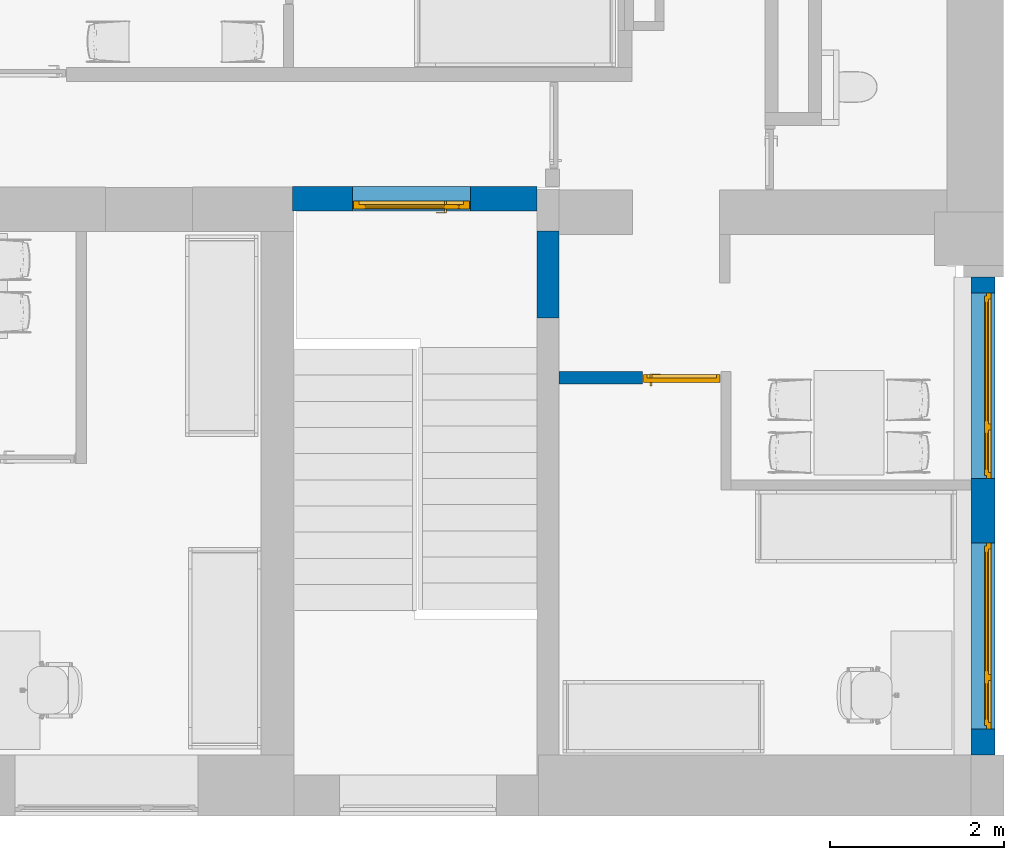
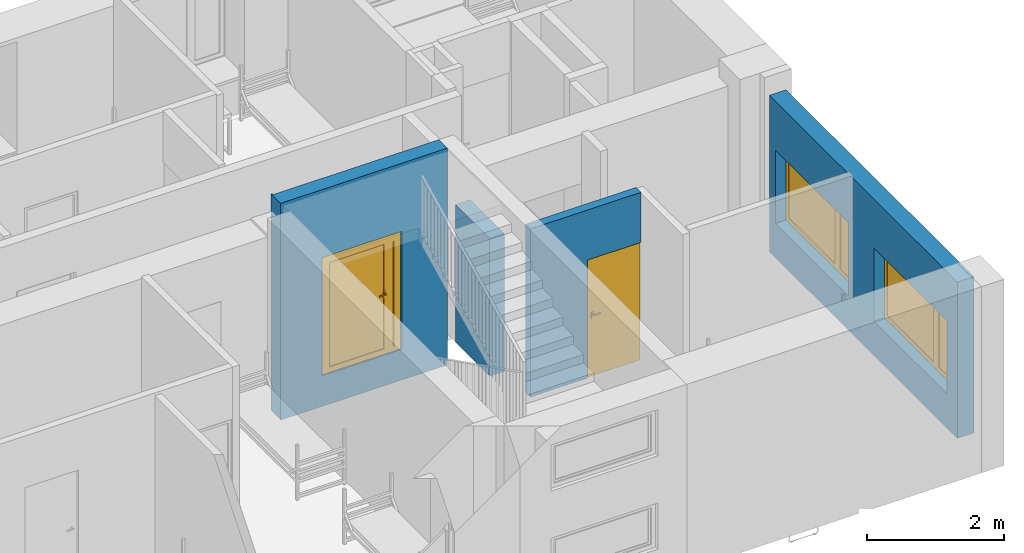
# One storey, part 12 of 48: 4 walls, 2 doors, 2 windows, 5 openings.
"""IFC2X3 building model written with IfcOpenShell, lengths in millimetres."""

from ifc_helpers import new_model, entity, si_unit, converted_unit, derived_unit, direction, frame, frame_2d, origin, place, context, subcontext, project, spatial, polyline, rectangle, extrude, clip, bounded_halfspace, faceted_brep, source, transform, mapped, material, material_list, layer, layer_set, layer_usage, type_object, type_shapes, element, fill, save


model = new_model("IFC2X3")

# Units and contexts
model_context = context("Model", 3, precision=0.01, world=origin(), true_north=direction((6.12303176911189e-17, 1.0)))
body_context = subcontext(model_context, "Body", "Model", "MODEL_VIEW")
ifc_project = project(units=[si_unit("LENGTHUNIT", "METRE", prefix="MILLI"), si_unit("AREAUNIT", "SQUARE_METRE"), si_unit("VOLUMEUNIT", "CUBIC_METRE"), converted_unit("PLANEANGLEUNIT", "DEGREE", entity("IfcRatioMeasure", 0.0174532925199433), si_unit("PLANEANGLEUNIT", "RADIAN"), dimensions=[0, 0, 0, 0, 0, 0, 0]), si_unit("MASSUNIT", "GRAM", prefix="KILO"), derived_unit("MASSDENSITYUNIT", [(si_unit("MASSUNIT", "GRAM", prefix="KILO"), 1), (si_unit("LENGTHUNIT", "METRE"), -3)]), si_unit("TIMEUNIT", "SECOND"), si_unit("FREQUENCYUNIT", "HERTZ"), si_unit("THERMODYNAMICTEMPERATUREUNIT", "DEGREE_CELSIUS"), derived_unit("THERMALTRANSMITTANCEUNIT", [(si_unit("MASSUNIT", "GRAM", prefix="KILO"), 1), (si_unit("THERMODYNAMICTEMPERATUREUNIT", "KELVIN"), -1), (si_unit("TIMEUNIT", "SECOND"), -3)]), derived_unit("VOLUMETRICFLOWRATEUNIT", [(si_unit("LENGTHUNIT", "METRE"), 3), (si_unit("TIMEUNIT", "SECOND"), -1)]), si_unit("ELECTRICCURRENTUNIT", "AMPERE"), si_unit("ELECTRICVOLTAGEUNIT", "VOLT"), si_unit("POWERUNIT", "WATT"), si_unit("FORCEUNIT", "NEWTON", prefix="KILO"), si_unit("ILLUMINANCEUNIT", "LUX"), si_unit("LUMINOUSFLUXUNIT", "LUMEN"), si_unit("LUMINOUSINTENSITYUNIT", "CANDELA"), derived_unit("USERDEFINED", [(si_unit("MASSUNIT", "GRAM", prefix="KILO"), -1), (si_unit("LENGTHUNIT", "METRE"), -2), (si_unit("TIMEUNIT", "SECOND"), 3), (si_unit("LUMINOUSFLUXUNIT", "LUMEN"), 1)]), derived_unit("LINEARVELOCITYUNIT", [(si_unit("LENGTHUNIT", "METRE"), 1), (si_unit("TIMEUNIT", "SECOND"), -1)]), si_unit("PRESSUREUNIT", "PASCAL"), derived_unit("USERDEFINED", [(si_unit("LENGTHUNIT", "METRE"), -2), (si_unit("MASSUNIT", "GRAM", prefix="KILO"), 1), (si_unit("TIMEUNIT", "SECOND"), -2)]), derived_unit("LINEARFORCEUNIT", [(si_unit("MASSUNIT", "GRAM", prefix="KILO"), 1), (si_unit("LENGTHUNIT", "METRE"), 1), (si_unit("TIMEUNIT", "SECOND"), -2), (si_unit("LENGTHUNIT", "METRE"), -1)]), derived_unit("PLANARFORCEUNIT", [(si_unit("MASSUNIT", "GRAM", prefix="KILO"), 1), (si_unit("LENGTHUNIT", "METRE"), 1), (si_unit("TIMEUNIT", "SECOND"), -2), (si_unit("LENGTHUNIT", "METRE"), -2)])], contexts=[model_context])

# Site, building, storey
site_placement = place(None, origin())
site = spatial("IfcSite", under=ifc_project, at=site_placement, Name="Default", CompositionType="ELEMENT")
building_placement = place(site_placement, origin())
building = spatial("IfcBuilding", under=site, at=building_placement, Name="SMA ARH", CompositionType="ELEMENT")
storey_placement = place(building_placement, frame((0.0, 0.0, 6600.0)))
storey = spatial("IfcBuildingStorey", under=building, at=storey_placement, Name="3 Korrus", CompositionType="ELEMENT", Elevation=6599.99999999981)

# Wall, openings, door
ifc_material_1 = material(Name="_ol.olev sein")
ifc_layer_1 = layer(ifc_material_1, 280.0)
ifc_layer_set_1 = layer_set([ifc_layer_1], Name="Basic Wall:Generic - 280mm")
ifc_layer_usage_1 = layer_usage(ifc_layer_set_1, "AXIS2", "POSITIVE", -140.0)
wall_type_1 = type_object("IfcWallType", Name="Basic Wall:Generic - 280mm", PredefinedType="STANDARD", material=ifc_layer_set_1)
wall_1_placement = place(storey_placement, frame((30810.0, 6380.0, -545.79769158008)))
wall_1 = element("IfcWallStandardCase", 1, at=wall_1_placement, inside=storey, type_object=wall_type_1, material=ifc_layer_usage_1, Name="Basic Wall:Generic - 280mm", ObjectType="Basic Wall:Generic - 280mm", context=body_context, shape_type="Clipping", body=[
    clip(clip(extrude(rectangle(XDim=2805.00000000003, YDim=280.0, at=frame_2d((1402.50000000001, -5.40012479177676e-13), x_axis=(-1.0, 0.0))), origin(), (0.0, 0.0, 1.0), 3855.79769157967), bounded_halfspace(frame((20.0, 110.0, 3525.79769158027), z_axis=(0.0, 0.0, -1.0), x_axis=(0.0, 1.0, 0.0)), True, frame((20.0, 110.0, 3525.79769158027), z_axis=(0.0, 0.0, -1.0), x_axis=(0.0, 1.0, 0.0)), polyline([(0.0, 0.0), (25.0, 0.0), (30.0, 0.0), (30.0, 2785.0), (0.0, 2785.0), (0.0, 0.0)]))), bounded_halfspace(frame((2805.0, 110.0, 3525.79769158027), z_axis=(0.0, -1.0, 0.0), x_axis=(0.0, 0.0, 1.0)), True, frame((2805.0, 110.0, 3525.79769158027), z_axis=(0.0, -1.0, 0.0), x_axis=(0.0, 0.0, 1.0)), polyline([(0.0, 0.0), (330.0, 0.0), (330.0, 2785.0), (40.0, 2785.0), (0.0, 2785.0), (0.0, 0.0)]))),
])
opening_1_placement = place(wall_1_placement, origin())
element("IfcOpeningElement", 2, at=opening_1_placement, cuts=wall_1, Name="Basic Wall:Generic - 280mm", ObjectType="Opening", context=body_context, shape_type="SweptSolid", body=[
    extrude(rectangle(XDim=2099.99999999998, YDim=1350.0, at=frame_2d((-1.02318153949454e-12, 2.1600499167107e-12), x_axis=(1.0, 0.0))), frame((1395.0, -1384.0, 4905.79769157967), z_axis=(0.0, 1.0, 0.0), x_axis=(0.0, 0.0, 1.0)), (0.0, 0.0, 1.0), 3048.0),
])
opening_2_placement = place(wall_1_placement, frame((2040.0, 140.0, 545.797691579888)))
opening_2 = element("IfcOpeningElement", 3, at=opening_2_placement, cuts=wall_1, Name="SMA_D02, 2-poolne:SU-AL-03 - 1350x2100:1", ObjectType="Opening", context=body_context, shape_type="SweptSolid", body=[
    extrude(rectangle(XDim=2099.99999999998, YDim=1350.0, at=frame_2d((1049.99999999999, 675.0), x_axis=(1.0, 0.0))), frame((0.0, 0.0, 0.0), z_axis=(0.0, -1.0, 0.0), x_axis=(0.0, 0.0, 1.0)), (0.0, 0.0, 1.0), 280.0),
])
ifc_material_2 = material(Name="EST. Metall. Plekk. Värvitud. RAL7023 (Concrete grey)")
ifc_material_3 = material(Name="EST. Klaas. 3x. Default")
ifc_material_list_1 = material_list([ifc_material_2, ifc_material_3])
ifc_material_4 = material(Name="<Unnamed>")
ifc_material_list_2 = material_list([ifc_material_4, ifc_material_4, ifc_material_2, ifc_material_3, ifc_material_4, ifc_material_2, ifc_material_2])
door_style_1 = type_object("IfcDoorStyle", Name="SMA_D02, 2-poolne:SU-AL-03 - 1350x2100", ConstructionType="NOTDEFINED", OperationType="SINGLE_SWING_RIGHT", ParameterTakesPrecedence=False, Sizeable=False, material=ifc_material_list_2)
shared_shape_1 = source(origin(), body_context, "Body", "Brep", [
    faceted_brep([(297.499999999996, 170.0, 1100.0), (297.499999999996, 208.0, 1100.0), (272.499999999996, 208.0, 1100.0), (272.499999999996, 165.0, 1100.0), (392.499999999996, 165.0, 1100.0), (392.499999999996, 170.0, 1100.0), (297.499999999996, 170.0, 1075.0), (392.499999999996, 170.0, 1075.0), (392.499999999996, 165.0, 1075.0), (272.499999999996, 165.0, 1075.0), (272.499999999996, 208.0, 1075.0), (297.499999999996, 208.0, 1075.0)], [[[0, 1, 2, 3, 4, 5]], [[6, 7, 8, 9, 10, 11]], [[1, 0, 6, 11]], [[2, 1, 11, 10]], [[3, 2, 10, 9]], [[4, 3, 9, 8]], [[5, 4, 8, 7]], [[0, 5, 7, 6]]]),
    faceted_brep([(310.0, 208.0, 1125.0), (310.0, 210.0, 1125.0), (260.0, 210.0, 1125.0), (260.0, 208.0, 1125.0), (310.0, 208.0, 1005.0), (260.0, 208.0, 1005.0), (260.0, 210.0, 1005.0), (310.0, 210.0, 1005.0)], [[[0, 1, 2, 3]], [[4, 5, 6, 7]], [[1, 0, 4, 7]], [[2, 1, 7, 6]], [[3, 2, 6, 5]], [[0, 3, 5, 4]]]),
    faceted_brep([(297.499999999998, 300.0, 1100.0), (392.499999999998, 300.0, 1100.0), (392.499999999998, 305.0, 1100.0), (272.499999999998, 305.0, 1100.0), (272.499999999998, 262.0, 1100.0), (297.499999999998, 262.0, 1100.0), (297.499999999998, 300.0, 1075.0), (297.499999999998, 262.0, 1075.0), (272.499999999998, 262.0, 1075.0), (272.499999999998, 305.0, 1075.0), (392.499999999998, 305.0, 1075.0), (392.499999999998, 300.0, 1075.0)], [[[0, 1, 2, 3, 4, 5]], [[6, 7, 8, 9, 10, 11]], [[5, 7, 6, 0]], [[4, 8, 7, 5]], [[3, 9, 8, 4]], [[2, 10, 9, 3]], [[1, 11, 10, 2]], [[0, 6, 11, 1]]]),
    faceted_brep([(310.0, 262.0, 1125.0), (260.0, 262.0, 1125.0), (260.0, 260.0, 1125.0), (310.0, 260.0, 1125.0), (310.0, 262.0, 1005.0), (310.0, 260.0, 1005.0), (260.0, 260.0, 1005.0), (260.0, 262.0, 1005.0)], [[[0, 1, 2, 3]], [[4, 5, 6, 7]], [[3, 5, 4, 0]], [[2, 6, 5, 3]], [[1, 7, 6, 2]], [[0, 4, 7, 1]]]),
    faceted_brep([(1274.5, 170.0, 30.0), (1274.5, 170.0, 0.0), (1274.5, 210.0, 0.0), (1274.5, 210.0, 20.0), (1274.5, 210.0, 30.0), (75.4999999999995, 170.0, 30.0), (75.4999999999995, 210.0, 30.0), (75.4999999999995, 210.0, 20.0), (75.4999999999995, 210.0, 0.0), (75.4999999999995, 170.0, 0.0), (65.4999999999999, 210.0, 0.0), (65.4999999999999, 260.0, 0.0), (1284.5, 260.0, 0.0), (1284.5, 210.0, 0.0), (1284.5, 260.0, 20.0), (1284.5, 210.0, 20.0), (65.4999999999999, 260.0, 20.0), (65.4999999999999, 210.0, 20.0)], [[[0, 1, 2, 3, 4]], [[5, 6, 7, 8, 9]], [[1, 0, 5, 9]], [[2, 1, 9, 8, 10, 11, 12, 13]], [[6, 4, 3, 7]], [[0, 4, 6, 5]], [[14, 15, 13, 12]], [[16, 11, 10, 17]], [[15, 14, 16, 17, 7, 3]], [[13, 15, 3, 2]], [[14, 12, 11, 16]], [[17, 10, 8, 7]]]),
    faceted_brep([(1340.0, 170.0, 0.0), (1274.5, 170.0, 0.0), (1274.5, 210.0, 0.0), (1284.5, 210.0, 0.0), (1284.5, 260.0, 0.0), (1340.0, 260.0, 0.0), (1340.0, 170.0, 2090.0), (10.0, 170.0, 2090.0), (10.0, 170.0, 0.0), (75.4999999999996, 170.0, 0.0), (75.4999999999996, 170.0, 2024.49999999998), (1274.5, 170.0, 2024.49999999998), (1274.5, 210.0, 2024.49999999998), (75.5000000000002, 210.0, 2024.49999999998), (75.5000000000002, 210.0, 0.0), (65.5000000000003, 210.0, 0.0), (65.5000000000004, 210.0, 2034.49999999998), (1284.5, 210.0, 2034.49999999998), (1284.5, 260.0, 2034.49999999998), (65.5, 260.0, 2034.49999999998), (65.5, 260.0, 0.0), (10.0, 260.0, 0.0), (10.0, 260.0, 2090.0), (1340.0, 260.0, 2090.0)], [[[0, 1, 2, 3, 4, 5]], [[1, 0, 6, 7, 8, 9, 10, 11]], [[2, 1, 11, 12]], [[3, 2, 12, 13, 14, 15, 16, 17]], [[4, 3, 17, 18]], [[5, 4, 18, 19, 20, 21, 22, 23]], [[0, 5, 23, 6]], [[8, 7, 22, 21]], [[9, 8, 21, 20, 15, 14]], [[10, 9, 14, 13]], [[16, 15, 20, 19]], [[11, 10, 13, 12]], [[17, 16, 19, 18]], [[7, 6, 23, 22]]]),
    faceted_brep([(140.500000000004, 225.0, 95.0), (140.500000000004, 225.0, 1955.0), (125.0, 225.0, 1955.0), (125.0, 225.0, 95.0), (140.500000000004, 245.0, 95.0), (125.0, 245.0, 95.0), (125.0, 245.0, 1955.0), (140.500000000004, 245.0, 1955.0)], [[[0, 1, 2, 3]], [[4, 5, 6, 7]], [[0, 3, 5, 4]], [[3, 2, 6, 5]], [[2, 1, 7, 6]], [[1, 0, 4, 7]]]),
    faceted_brep([(295.0, 225.0, 95.0), (1209.5, 225.0, 95.0), (1209.5, 225.0, 1955.0), (295.0, 225.0, 1955.0), (295.0, 245.0, 95.0), (295.0, 245.0, 1955.0), (1209.5, 245.0, 1955.0), (1209.5, 245.0, 95.0)], [[[0, 1, 2, 3]], [[4, 5, 6, 7]], [[1, 0, 4, 7]], [[2, 1, 7, 6]], [[3, 2, 6, 5]], [[0, 3, 5, 4]]]),
    faceted_brep([(210.0, 210.0, 2034.49999999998), (65.4999999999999, 210.0, 2034.49999999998), (65.4999999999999, 210.0, 20.0), (210.0, 210.0, 20.0), (140.500000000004, 210.0, 1955.0), (140.500000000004, 210.0, 95.0), (125.0, 210.0, 95.0), (125.0, 210.0, 1955.0), (210.0, 260.0, 2034.49999999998), (210.0, 260.0, 20.0), (65.4999999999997, 260.0, 20.0), (65.4999999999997, 260.0, 2034.49999999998), (140.500000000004, 260.0, 95.0), (140.500000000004, 260.0, 1955.0), (125.0, 260.0, 1955.0), (125.0, 260.0, 95.0)], [[[0, 1, 2, 3], [4, 5, 6, 7]], [[8, 9, 10, 11], [12, 13, 14, 15]], [[1, 0, 8, 11]], [[2, 1, 11, 10]], [[3, 2, 10, 9]], [[0, 3, 9, 8]], [[12, 5, 4, 13]], [[5, 12, 15, 6]], [[6, 15, 14, 7]], [[7, 14, 13, 4]]]),
    faceted_brep([(210.0, 210.0, 2034.49999999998), (210.0, 210.0, 20.0), (1284.5, 210.0, 20.0), (1284.5, 210.0, 2034.49999999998), (295.0, 210.0, 95.0), (295.0, 210.0, 1955.0), (1209.5, 210.0, 1955.0), (1209.5, 210.0, 95.0), (210.0, 260.0, 2034.49999999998), (1284.5, 260.0, 2034.49999999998), (1284.5, 260.0, 20.0), (210.0, 260.0, 20.0), (295.0, 260.0, 1955.0), (295.0, 260.0, 95.0), (1209.5, 260.0, 95.0), (1209.5, 260.0, 1955.0)], [[[0, 1, 2, 3], [4, 5, 6, 7]], [[8, 9, 10, 11], [12, 13, 14, 15]], [[1, 0, 8, 11]], [[2, 1, 11, 10]], [[3, 2, 10, 9]], [[0, 3, 9, 8]], [[12, 5, 4, 13]], [[13, 4, 7, 14]], [[14, 7, 6, 15]], [[5, 12, 15, 6]]]),
])
type_shapes(door_style_1, [shared_shape_1])
door_1_placement = place(opening_2_placement, frame((0.0, 0.0, 0.0), z_axis=(0.0, 0.0, 1.0), x_axis=(-1.0, 0.0, 0.0)))
door_1 = element("IfcDoor", 4, at=door_1_placement, inside=storey, type_object=door_style_1, material=ifc_material_list_1, Name="SMA_D02, 2-poolne:SU-AL-03 - 1350x2100", ObjectType="SMA_D02, 2-poolne:SU-AL-03 - 1350x2100", OverallHeight=2099.99999999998, OverallWidth=1350.0, context=body_context, shape_type="MappedRepresentation", body=[
    mapped(shared_shape_1, transform((0.0, 0.0, 0.0), scale=1.0)),
])
fill(opening_2, door_1)

# Wall, openings, windows
ifc_layer_usage_2 = layer_usage(ifc_layer_set_1, "AXIS2", "NEGATIVE", 140.0)
wall_2_placement = place(storey_placement, frame((38729.9009991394, 5480.0, 190.0), z_axis=(0.0, 0.0, 1.0), x_axis=(0.0, -1.0, 0.0)))
wall_2 = element("IfcWallStandardCase", 5, at=wall_2_placement, inside=storey, type_object=wall_type_1, material=ifc_layer_usage_2, Name="Basic Wall:Generic - 280mm", ObjectType="Basic Wall:Generic - 280mm", context=body_context, shape_type="Clipping", body=[
    clip(extrude(rectangle(XDim=5480.00000000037, YDim=279.999999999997, at=frame_2d((2740.00000000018, 0.0), x_axis=(-1.0, 0.0))), origin(), (0.0, 0.0, 1.0), 2779.99999999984), bounded_halfspace(frame((0.0, -140.0, 2780.0), z_axis=(0.0, 0.0, -1.0), x_axis=(0.0, 1.0, 0.0)), True, frame((0.0, -140.0, 2780.0), z_axis=(0.0, 0.0, -1.0), x_axis=(0.0, 1.0, 0.0)), polyline([(0.0, 0.0), (280.0, 0.0), (280.0, 5480.0), (0.0, 5480.0), (0.0, 0.0)]))),
])
opening_3_placement = place(wall_2_placement, frame((3050.0, -140.0, 610.0)))
opening_3 = element("IfcOpeningElement", 6, at=opening_3_placement, cuts=wall_2, Name="SMA_W2, 2-jaotus:A-00 - 19800x1900:1", ObjectType="Opening", context=body_context, shape_type="SweptSolid", body=[
    extrude(rectangle(XDim=1300.0, YDim=2130.0, at=frame_2d((650.0, 1065.0), x_axis=(1.0, 0.0))), frame((0.0, 0.0, 0.0), z_axis=(0.0, 1.0, 0.0), x_axis=(0.0, 0.0, 1.0)), (0.0, 0.0, 1.0), 280.0),
])
opening_4_placement = place(wall_2_placement, frame((180.0, -140.0, 610.0)))
opening_4 = element("IfcOpeningElement", 7, at=opening_4_placement, cuts=wall_2, Name="SMA_W2, 2-jaotus:A-00 - 19800x1900:1", ObjectType="Opening", context=body_context, shape_type="SweptSolid", body=[
    extrude(rectangle(XDim=1300.0, YDim=2130.0, at=frame_2d((650.0, 1065.0), x_axis=(1.0, 0.0))), frame((0.0, 0.0, 0.0), z_axis=(0.0, 1.0, 0.0), x_axis=(0.0, 0.0, 1.0)), (0.0, 0.0, 1.0), 280.0),
])
ifc_material_5 = material(Name="Glass")
ifc_material_6 = material(Name="Hall")
ifc_material_list_3 = material_list([ifc_material_5, ifc_material_6])
ifc_material_list_4 = material_list([ifc_material_5, ifc_material_6, ifc_material_4, ifc_material_6, ifc_material_4])
window_style = type_object("IfcWindowStyle", Name="SMA_W2, 2-jaotus:A-00 - 19800x1900", ConstructionType="NOTDEFINED", OperationType="NOTDEFINED", ParameterTakesPrecedence=False, Sizeable=False, material=ifc_material_list_4)
shared_shape_2 = source(origin(), body_context, "Body", "Brep", [
    faceted_brep([(105.0, 170.0, 1195.0), (105.0, 170.0, 105.0), (1470.0, 170.0, 105.0), (1470.0, 170.0, 1195.0), (105.0, 190.0, 1195.0), (105.0, 190.0, 105.0), (1470.0, 190.0, 105.0), (1470.0, 190.0, 1195.0)], [[[0, 1, 2, 3]], [[1, 0, 4, 5]], [[2, 1, 5, 6]], [[3, 2, 6, 7]], [[4, 7, 6, 5]], [[0, 3, 7, 4]]]),
    faceted_brep([(1610.0, 170.0, 105.0), (2025.0, 170.0, 105.0), (2025.0, 170.0, 1195.0), (1610.0, 170.0, 1195.0), (1610.0, 190.0, 105.0), (2025.0, 190.0, 105.0), (2025.0, 190.0, 1195.0), (1610.0, 190.0, 1195.0)], [[[0, 1, 2, 3]], [[1, 0, 4, 5]], [[2, 1, 5, 6]], [[0, 3, 7, 4]], [[4, 7, 6, 5]], [[3, 2, 6, 7]]]),
    faceted_brep([(35.0, 155.0, 35.0), (1540.0, 155.0, 35.0), (1540.0, 155.0, 1265.0), (35.0, 155.0, 1265.0), (1470.0, 155.0, 1195.0), (1470.0, 155.0, 105.0), (105.0, 155.0, 105.0), (105.0, 155.0, 1195.0), (35.0, 205.0, 35.0), (1540.0, 205.0, 35.0), (1540.0, 205.0, 1265.0), (35.0, 205.0, 1265.0), (1470.0, 205.0, 1195.0), (1470.0, 205.0, 105.0), (105.0, 205.0, 105.0), (105.0, 205.0, 1195.0)], [[[0, 1, 2, 3], [4, 5, 6, 7]], [[1, 0, 8, 9]], [[2, 1, 9, 10]], [[0, 3, 11, 8]], [[5, 4, 12, 13]], [[6, 5, 13, 14]], [[7, 6, 14, 15]], [[8, 11, 10, 9], [12, 15, 14, 13]], [[3, 2, 10, 11]], [[4, 7, 15, 12]]]),
    faceted_brep([(1540.0, 155.0, 35.0), (2095.0, 155.0, 35.0), (2095.0, 155.0, 1265.0), (1540.0, 155.0, 1265.0), (2025.0, 155.0, 1195.0), (2025.0, 155.0, 105.0), (1610.0, 155.0, 105.0), (1610.0, 155.0, 1195.0), (1540.0, 205.0, 35.0), (2095.0, 205.0, 35.0), (2095.0, 205.0, 1265.0), (1540.0, 205.0, 1265.0), (2025.0, 205.0, 1195.0), (2025.0, 205.0, 105.0), (1610.0, 205.0, 105.0), (1610.0, 205.0, 1195.0)], [[[0, 1, 2, 3], [4, 5, 6, 7]], [[1, 0, 8, 9]], [[2, 1, 9, 10]], [[0, 3, 11, 8]], [[5, 4, 12, 13]], [[6, 5, 13, 14]], [[7, 6, 14, 15]], [[8, 11, 10, 9], [12, 15, 14, 13]], [[3, 2, 10, 11]], [[4, 7, 15, 12]]]),
    faceted_brep([(0.0, 180.0, 0.0), (2130.0, 180.0, 0.0), (2130.0, 180.0, 1300.0), (0.0, 180.0, 1300.0), (2095.0, 180.0, 35.0), (1540.0, 180.0, 35.0), (1540.0, 180.0, 1265.0), (2095.0, 180.0, 1265.0), (70.0, 180.0, 1230.0), (1505.0, 180.0, 1230.0), (1505.0, 180.0, 70.0), (70.0, 180.0, 70.0), (0.0, 230.0, 0.0), (2130.0, 230.0, 0.0), (2130.0, 230.0, 1300.0), (0.0, 230.0, 1300.0), (1505.0, 230.0, 1230.0), (1505.0, 230.0, 70.0), (70.0, 230.0, 70.0), (70.0, 230.0, 1230.0), (2095.0, 205.0, 35.0), (1540.0, 205.0, 35.0), (1540.0, 205.0, 1265.0), (2095.0, 205.0, 1265.0), (1575.0, 230.0, 1230.0), (1575.0, 230.0, 70.0), (2060.0, 230.0, 70.0), (2060.0, 230.0, 1230.0), (1575.0, 205.0, 1230.0), (1575.0, 205.0, 70.0), (2060.0, 205.0, 70.0), (2060.0, 205.0, 1230.0)], [[[0, 1, 2, 3], [4, 5, 6, 7], [8, 9, 10, 11]], [[1, 0, 12, 13]], [[2, 1, 13, 14]], [[0, 3, 15, 12]], [[10, 9, 16, 17]], [[11, 10, 17, 18]], [[8, 11, 18, 19]], [[20, 21, 5, 4]], [[21, 22, 6, 5]], [[23, 20, 4, 7]], [[12, 15, 14, 13], [19, 18, 17, 16], [24, 25, 26, 27]], [[25, 24, 28, 29]], [[26, 25, 29, 30]], [[27, 26, 30, 31]], [[21, 20, 23, 22], [28, 31, 30, 29]], [[3, 2, 14, 15]], [[24, 27, 31, 28]], [[9, 8, 19, 16]], [[22, 23, 7, 6]]]),
])
type_shapes(window_style, [shared_shape_2])
window_1_placement = place(opening_3_placement, origin())
window_1 = element("IfcWindow", 8, at=window_1_placement, inside=storey, type_object=window_style, material=ifc_material_list_3, Name="SMA_W2, 2-jaotus:A-00 - 19800x1900", ObjectType="SMA_W2, 2-jaotus:A-00 - 19800x1900", OverallHeight=1300.0, OverallWidth=2130.0, context=body_context, shape_type="MappedRepresentation", body=[
    mapped(shared_shape_2, transform((0.0, 0.0, 0.0), scale=1.0)),
])
fill(opening_3, window_1)
ifc_material_list_5 = material_list([ifc_material_5, ifc_material_6])
window_2_placement = place(opening_4_placement, origin())
window_2 = element("IfcWindow", 9, at=window_2_placement, inside=storey, type_object=window_style, material=ifc_material_list_5, Name="SMA_W2, 2-jaotus:A-00 - 19800x1900", ObjectType="SMA_W2, 2-jaotus:A-00 - 19800x1900", OverallHeight=1300.0, OverallWidth=2130.0, context=body_context, shape_type="MappedRepresentation", body=[
    mapped(shared_shape_2, transform((0.0, 0.0, 0.0), scale=1.0)),
])
fill(opening_4, window_2)

# Wall, opening, door
ifc_material_7 = material(Name="EST. Ehitusplaat. Kipsplaat")
ifc_layer_2 = layer(ifc_material_7, 12.5)
ifc_layer_3 = layer(ifc_material_7, 12.5)
ifc_material_8 = material(Name="EST. Õhkvahe. Roov. Kipsplaadi alusroov. Vertikaalne")
ifc_layer_4 = layer(ifc_material_8, 95.0)
ifc_layer_5 = layer(ifc_material_7, 12.5)
ifc_layer_6 = layer(ifc_material_7, 12.5)
ifc_layer_set_2 = layer_set([ifc_layer_2, ifc_layer_3, ifc_layer_4, ifc_layer_5, ifc_layer_6], Name="Basic Wall:SS-04_Kips, 95mm metallkarkass")
ifc_layer_usage_3 = layer_usage(ifc_layer_set_2, "AXIS2", "NEGATIVE", 72.5)
wall_type_2 = type_object("IfcWallType", Name="Basic Wall:SS-04_Kips, 95mm metallkarkass", PredefinedType="STANDARD", material=ifc_layer_set_2)
wall_3_placement = place(storey_placement, frame((35725.5000000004, 4326.0, 0.0), z_axis=(0.0, 0.0, 1.0), x_axis=(-1.0, 0.0, 0.0)))
wall_3 = element("IfcWallStandardCase", 10, at=wall_3_placement, inside=storey, type_object=wall_type_2, material=ifc_layer_usage_3, Name="Basic Wall:SS-04_Kips, 95mm metallkarkass", ObjectType="Basic Wall:SS-04_Kips, 95mm metallkarkass", context=body_context, shape_type="SweptSolid", body=[
    extrude(rectangle(XDim=1860.50000000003, YDim=145.0, at=frame_2d((930.250000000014, -1.56319401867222e-13), x_axis=(-1.0, 0.0))), origin(), (0.0, 0.0, 1.0), 2989.99999999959),
])
opening_5_placement = place(wall_3_placement, frame((0.0, -72.499999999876, 0.0)))
opening_5 = element("IfcOpeningElement", 11, at=opening_5_placement, cuts=wall_3, Name="SMA_D01, 1-poolne:SU-P-05 - 900x2100 TUBA:1", ObjectType="Opening", context=body_context, shape_type="SweptSolid", body=[
    extrude(rectangle(XDim=2099.99999999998, YDim=900.0, at=frame_2d((1049.99999999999, 450.000000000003), x_axis=(1.0, 0.0))), frame((0.0, 0.0, 0.0), z_axis=(0.0, 1.0, 0.0), x_axis=(0.0, 0.0, 1.0)), (0.0, 0.0, 1.0), 145.0),
])
ifc_material_9 = material(Name="EST. Metall. Alumiinium. Värvitud. RAL7023 (Concrete grey)")
ifc_material_list_6 = material_list([ifc_material_4, ifc_material_3, ifc_material_9, ifc_material_9, ifc_material_4, ifc_material_4, ifc_material_9])
door_style_2 = type_object("IfcDoorStyle", Name="SMA_D01, 1-poolne:SU-P-05 - 900x2100 TUBA", ConstructionType="NOTDEFINED", OperationType="SINGLE_SWING_LEFT", ParameterTakesPrecedence=False, Sizeable=False, material=ifc_material_list_6)
shared_shape_3 = source(origin(), body_context, "Body", "Brep", [
    faceted_brep([(790.0, 35.0, 1112.5), (695.0, 35.0, 1112.5), (695.0, 30.0, 1112.5), (815.0, 30.0, 1112.5), (815.0, 73.0, 1112.5), (790.0, 73.0, 1112.5), (790.0, 35.0, 1087.5), (790.0, 73.0, 1087.5), (815.0, 73.0, 1087.5), (815.0, 30.0, 1087.5), (695.0, 30.0, 1087.5), (695.0, 35.0, 1087.5)], [[[0, 1, 2, 3, 4, 5]], [[6, 7, 8, 9, 10, 11]], [[5, 7, 6, 0]], [[4, 8, 7, 5]], [[3, 9, 8, 4]], [[2, 10, 9, 3]], [[1, 11, 10, 2]], [[0, 6, 11, 1]]]),
    faceted_brep([(777.500000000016, 73.0, 1137.5), (827.500000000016, 73.0, 1137.5), (827.500000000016, 75.0, 1137.5), (777.500000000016, 75.0, 1137.5), (777.500000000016, 73.0, 1017.5), (777.500000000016, 75.0, 1017.5), (827.500000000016, 75.0, 1017.5), (827.500000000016, 73.0, 1017.5)], [[[0, 1, 2, 3]], [[4, 5, 6, 7]], [[3, 5, 4, 0]], [[2, 6, 5, 3]], [[1, 7, 6, 2]], [[0, 4, 7, 1]]]),
    faceted_brep([(790.0, 165.0, 1112.5), (790.0, 127.0, 1112.5), (815.0, 127.0, 1112.5), (815.0, 170.0, 1112.5), (695.0, 170.0, 1112.5), (695.0, 165.0, 1112.5), (790.0, 165.0, 1087.5), (695.0, 165.0, 1087.5), (695.0, 170.0, 1087.5), (815.0, 170.0, 1087.5), (815.0, 127.0, 1087.5), (790.0, 127.0, 1087.5)], [[[0, 1, 2, 3, 4, 5]], [[6, 7, 8, 9, 10, 11]], [[1, 0, 6, 11]], [[2, 1, 11, 10]], [[3, 2, 10, 9]], [[4, 3, 9, 8]], [[5, 4, 8, 7]], [[0, 5, 7, 6]]]),
    faceted_brep([(777.500000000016, 127.0, 1137.5), (777.500000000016, 125.0, 1137.5), (827.500000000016, 125.0, 1137.5), (827.500000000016, 127.0, 1137.5), (777.500000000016, 127.0, 1017.5), (827.500000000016, 127.0, 1017.5), (827.500000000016, 125.0, 1017.5), (777.500000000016, 125.0, 1017.5)], [[[0, 1, 2, 3]], [[4, 5, 6, 7]], [[1, 0, 4, 7]], [[2, 1, 7, 6]], [[3, 2, 6, 5]], [[0, 3, 5, 4]]]),
    faceted_brep([(50.0, 35.0, 30.0), (50.0, 75.0, 30.0), (50.0, 75.0, 20.0), (50.0, 75.0, 0.0), (50.0, 35.0, 0.0), (850.0, 35.0, 30.0), (850.0, 35.0, 0.0), (850.0, 75.0, 0.0), (850.0, 75.0, 20.0), (850.0, 75.0, 30.0), (35.0, 75.0, 0.0), (35.0, 125.0, 0.0), (865.0, 125.0, 0.0), (865.0, 75.0, 0.0), (35.0, 125.0, 20.0), (35.0, 75.0, 20.0), (865.0, 125.0, 20.0), (865.0, 75.0, 20.0)], [[[0, 1, 2, 3, 4]], [[5, 6, 7, 8, 9]], [[4, 6, 5, 0]], [[3, 10, 11, 12, 13, 7, 6, 4]], [[9, 8, 2, 1]], [[0, 5, 9, 1]], [[14, 11, 10, 15]], [[16, 17, 13, 12]], [[15, 2, 8, 17, 16, 14]], [[10, 3, 2, 15]], [[14, 16, 12, 11]], [[17, 8, 7, 13]]]),
    faceted_brep([(10.0, 35.0, 0.0), (10.0, 125.0, 0.0), (35.0, 125.0, 0.0), (35.0, 75.0, 0.0), (50.0, 75.0, 0.0), (50.0, 35.0, 0.0), (50.0, 35.0, 2050.0), (850.0, 35.0, 2050.0), (850.0, 35.0, 0.0), (890.0, 35.0, 0.0), (890.0, 35.0, 2090.0), (10.0, 35.0, 2090.0), (50.0, 75.0, 2050.0), (35.0, 75.0, 2065.0), (865.0, 75.0, 2065.0), (865.0, 75.0, 0.0), (850.0, 75.0, 0.0), (850.0, 75.0, 2050.0), (35.0, 125.0, 2065.0), (10.0, 125.0, 2090.0), (890.0, 125.0, 2090.0), (890.0, 125.0, 0.0), (865.0, 125.0, 0.0), (865.0, 125.0, 2065.0)], [[[0, 1, 2, 3, 4, 5]], [[5, 6, 7, 8, 9, 10, 11, 0]], [[4, 12, 6, 5]], [[3, 13, 14, 15, 16, 17, 12, 4]], [[2, 18, 13, 3]], [[1, 19, 20, 21, 22, 23, 18, 2]], [[0, 11, 19, 1]], [[9, 21, 20, 10]], [[8, 16, 15, 22, 21, 9]], [[7, 17, 16, 8]], [[14, 23, 22, 15]], [[6, 12, 17, 7]], [[13, 18, 23, 14]], [[10, 20, 19, 11]]]),
    faceted_brep([(865.0, 75.0, 2065.0), (35.0, 75.0, 2065.0), (35.0, 75.0, 20.0), (865.0, 75.0, 20.0), (865.0, 125.0, 2065.0), (865.0, 125.0, 20.0), (35.0, 125.0, 20.0), (35.0, 125.0, 2065.0)], [[[0, 1, 2, 3]], [[4, 5, 6, 7]], [[3, 5, 4, 0]], [[2, 6, 5, 3]], [[1, 7, 6, 2]], [[0, 4, 7, 1]]]),
])
type_shapes(door_style_2, [shared_shape_3])
door_2_placement = place(opening_5_placement, origin())
door_2 = element("IfcDoor", 12, at=door_2_placement, inside=storey, type_object=door_style_2, material=ifc_material_9, Name="SMA_D01, 1-poolne:SU-P-05 - 900x2100 TUBA", ObjectType="SMA_D01, 1-poolne:SU-P-05 - 900x2100 TUBA", OverallHeight=2099.99999999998, OverallWidth=900.000000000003, context=body_context, shape_type="MappedRepresentation", body=[
    mapped(shared_shape_3, transform((0.0, 0.0, 0.0), scale=1.0)),
])
fill(opening_5, door_2)

# Wall
ifc_material_10 = material(Name="EST. Müüritis. Väikeplokk. Kergkruusplokk")
ifc_layer_7 = layer(ifc_material_10, 250.0)
ifc_layer_set_3 = layer_set([ifc_layer_7], Name="Basic Wall:SS-00_Fibo 250mm")
ifc_layer_usage_4 = layer_usage(ifc_layer_set_3, "AXIS2", "NEGATIVE", 125.0)
wall_type_3 = type_object("IfcWallType", Name="Basic Wall:SS-00_Fibo 250mm", PredefinedType="STANDARD", material=ifc_layer_set_3)
wall_4_placement = place(storey_placement, frame((33740.0, 5010.0, 0.0), z_axis=(0.0, 0.0, 1.0), x_axis=(0.0, 1.0, 0.0)))
element("IfcWallStandardCase", 13, at=wall_4_placement, inside=storey, type_object=wall_type_3, material=ifc_layer_usage_4, Name="Basic Wall:SS-00_Fibo 250mm", ObjectType="Basic Wall:SS-00_Fibo 250mm", context=body_context, shape_type="SweptSolid", body=[
    extrude(rectangle(XDim=1000.00000000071, YDim=250.000000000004, at=frame_2d((500.000000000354, 0.0), x_axis=(-1.0, 0.0))), origin(), (0.0, 0.0, 1.0), 2448.3999999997),
])

save(model, "model.ifc")
